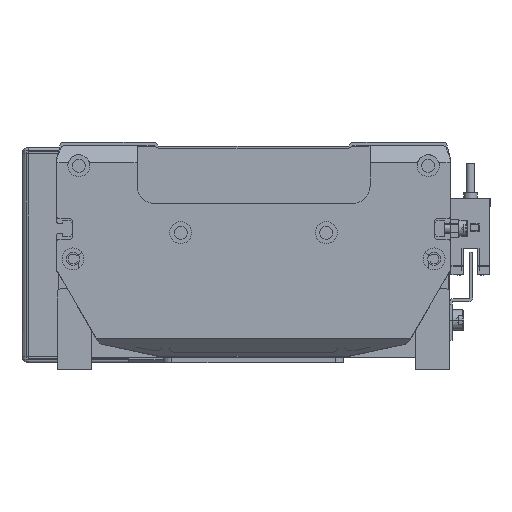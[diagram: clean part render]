
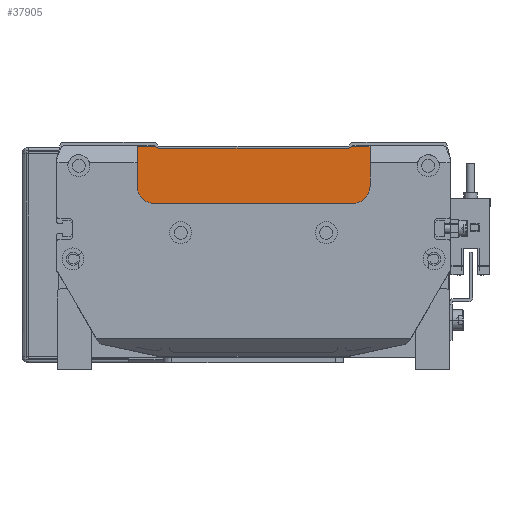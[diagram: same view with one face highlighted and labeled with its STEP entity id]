
A CAD part, front view. The second image highlights one B-rep face of the part: STEP entity #37905.
In plain terms, the highlighted planar face has unit normal (0, -1, 0) as drawn and (0, 0, -1) by its records, which use the part's own axes.
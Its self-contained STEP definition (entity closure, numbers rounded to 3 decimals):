
#557 = CARTESIAN_POINT ( 'NONE',  ( 37.604, 15., -364. ) ) ;
#1361 = DIRECTION ( 'NONE',  ( -1., 0., 0. ) ) ;
#1450 = VERTEX_POINT ( 'NONE', #22750 ) ;
#1458 = VERTEX_POINT ( 'NONE', #10700 ) ;
#1586 = VECTOR ( 'NONE', #3760, 1000. ) ;
#1632 = VECTOR ( 'NONE', #5220, 1000. ) ;
#2011 = EDGE_CURVE ( 'NONE', #29511, #9781, #38758, .T. ) ;
#2609 = VERTEX_POINT ( 'NONE', #28777 ) ;
#3028 = EDGE_CURVE ( 'NONE', #23475, #2609, #5935, .T. ) ;
#3545 = VECTOR ( 'NONE', #30402, 1000. ) ;
#3760 = DIRECTION ( 'NONE',  ( 0., -1., 0. ) ) ;
#4794 = CARTESIAN_POINT ( 'NONE',  ( 3.604, 1.5, -364. ) ) ;
#5220 = DIRECTION ( 'NONE',  ( -1., 0., 0. ) ) ;
#5935 = LINE ( 'NONE', #17907, #33993 ) ;
#6711 = VECTOR ( 'NONE', #36015, 1000. ) ;
#7748 = CARTESIAN_POINT ( 'NONE',  ( -30.396, 15., -364. ) ) ;
#8034 = DIRECTION ( 'NONE',  ( 0., 0., -1. ) ) ;
#8219 = EDGE_LOOP ( 'NONE', ( #29060, #17106, #30876, #26717, #11832, #38311, #9760, #28136, #14840, #8622 ) ) ;
#8622 = ORIENTED_EDGE ( 'NONE', *, *, #22770, .T. ) ;
#9274 = VECTOR ( 'NONE', #24285, 1000. ) ;
#9760 = ORIENTED_EDGE ( 'NONE', *, *, #2011, .T. ) ;
#9781 = VERTEX_POINT ( 'NONE', #38791 ) ;
#10273 = CARTESIAN_POINT ( 'NONE',  ( 3.604, 2., -364. ) ) ;
#10297 = LINE ( 'NONE', #10273, #6711 ) ;
#10700 = CARTESIAN_POINT ( 'NONE',  ( -30.396, 21., -364. ) ) ;
#10997 = VECTOR ( 'NONE', #17392, 1000. ) ;
#11364 = LINE ( 'NONE', #4794, #1632 ) ;
#11732 = DIRECTION ( 'NONE',  ( -1., 0., 0. ) ) ;
#11832 = ORIENTED_EDGE ( 'NONE', *, *, #23006, .T. ) ;
#11870 = CARTESIAN_POINT ( 'NONE',  ( 3.604, 1.5, -364. ) ) ;
#12295 = DIRECTION ( 'NONE',  ( -0.894, -0.447, 0. ) ) ;
#13142 = VERTEX_POINT ( 'NONE', #24622 ) ;
#13314 = LINE ( 'NONE', #28213, #3545 ) ;
#14631 = DIRECTION ( 'NONE',  ( 1., 0., 0. ) ) ;
#14840 = ORIENTED_EDGE ( 'NONE', *, *, #17636, .F. ) ;
#15063 = AXIS2_PLACEMENT_3D ( 'NONE', #40505, #21269, #1361 ) ;
#15340 = VERTEX_POINT ( 'NONE', #22341 ) ;
#16959 = CARTESIAN_POINT ( 'NONE',  ( -28.893, 2., -364. ) ) ;
#17106 = ORIENTED_EDGE ( 'NONE', *, *, #29208, .T. ) ;
#17392 = DIRECTION ( 'NONE',  ( 0., 1., 0. ) ) ;
#17636 = EDGE_CURVE ( 'NONE', #41844, #1450, #13314, .T. ) ;
#17907 = CARTESIAN_POINT ( 'NONE',  ( -28.893, 2., -364. ) ) ;
#18779 = CIRCLE ( 'NONE', #31851, 6. ) ;
#19268 = LINE ( 'NONE', #11870, #27869 ) ;
#19709 = LINE ( 'NONE', #36520, #10997 ) ;
#21269 = DIRECTION ( 'NONE',  ( 0., 0., -1. ) ) ;
#22341 = CARTESIAN_POINT ( 'NONE',  ( -36.396, 15., -364. ) ) ;
#22750 = CARTESIAN_POINT ( 'NONE',  ( 37.1, 1.5, -364. ) ) ;
#22770 = EDGE_CURVE ( 'NONE', #41844, #23475, #10297, .T. ) ;
#23006 = EDGE_CURVE ( 'NONE', #1458, #13142, #29690, .T. ) ;
#23475 = VERTEX_POINT ( 'NONE', #16959 ) ;
#23541 = CARTESIAN_POINT ( 'NONE',  ( 43.604, 25., -364. ) ) ;
#23913 = VERTEX_POINT ( 'NONE', #30690 ) ;
#24285 = DIRECTION ( 'NONE',  ( 1., 0., 0. ) ) ;
#24622 = CARTESIAN_POINT ( 'NONE',  ( 37.604, 21., -364. ) ) ;
#26717 = ORIENTED_EDGE ( 'NONE', *, *, #36744, .T. ) ;
#27265 = CARTESIAN_POINT ( 'NONE',  ( 36.1, 2., -364. ) ) ;
#27869 = VECTOR ( 'NONE', #11732, 1000. ) ;
#28136 = ORIENTED_EDGE ( 'NONE', *, *, #32035, .T. ) ;
#28213 = CARTESIAN_POINT ( 'NONE',  ( 0.903, 19.599, -364. ) ) ;
#28777 = CARTESIAN_POINT ( 'NONE',  ( -29.893, 1.5, -364. ) ) ;
#29060 = ORIENTED_EDGE ( 'NONE', *, *, #3028, .T. ) ;
#29208 = EDGE_CURVE ( 'NONE', #2609, #23913, #19268, .T. ) ;
#29511 = VERTEX_POINT ( 'NONE', #36561 ) ;
#29690 = LINE ( 'NONE', #40674, #9274 ) ;
#30312 = EDGE_CURVE ( 'NONE', #23913, #15340, #19709, .T. ) ;
#30402 = DIRECTION ( 'NONE',  ( 0.894, -0.447, 0. ) ) ;
#30690 = CARTESIAN_POINT ( 'NONE',  ( -36.396, 1.5, -364. ) ) ;
#30876 = ORIENTED_EDGE ( 'NONE', *, *, #30312, .T. ) ;
#31851 = AXIS2_PLACEMENT_3D ( 'NONE', #557, #32511, #42254 ) ;
#32035 = EDGE_CURVE ( 'NONE', #9781, #1450, #11364, .T. ) ;
#32511 = DIRECTION ( 'NONE',  ( 0., 0., -1. ) ) ;
#33993 = VECTOR ( 'NONE', #12295, 1000. ) ;
#34370 = CIRCLE ( 'NONE', #37321, 6. ) ;
#35381 = EDGE_CURVE ( 'NONE', #13142, #29511, #18779, .T. ) ;
#36015 = DIRECTION ( 'NONE',  ( -1., 0., 0. ) ) ;
#36520 = CARTESIAN_POINT ( 'NONE',  ( -36.396, 25., -364. ) ) ;
#36561 = CARTESIAN_POINT ( 'NONE',  ( 43.604, 15., -364. ) ) ;
#36744 = EDGE_CURVE ( 'NONE', #15340, #1458, #34370, .T. ) ;
#37321 = AXIS2_PLACEMENT_3D ( 'NONE', #7748, #8034, #14631 ) ;
#37905 = ADVANCED_FACE ( 'NONE', ( #39873 ), #39938, .T. ) ;
#38311 = ORIENTED_EDGE ( 'NONE', *, *, #35381, .T. ) ;
#38758 = LINE ( 'NONE', #23541, #1586 ) ;
#38791 = CARTESIAN_POINT ( 'NONE',  ( 43.604, 1.5, -364. ) ) ;
#39873 = FACE_OUTER_BOUND ( 'NONE', #8219, .T. ) ;
#39938 = PLANE ( 'NONE',  #15063 ) ;
#40505 = CARTESIAN_POINT ( 'NONE',  ( 3.604, 25., -364. ) ) ;
#40674 = CARTESIAN_POINT ( 'NONE',  ( 3.604, 21., -364. ) ) ;
#41844 = VERTEX_POINT ( 'NONE', #27265 ) ;
#42254 = DIRECTION ( 'NONE',  ( 1., 0., 0. ) ) ;
